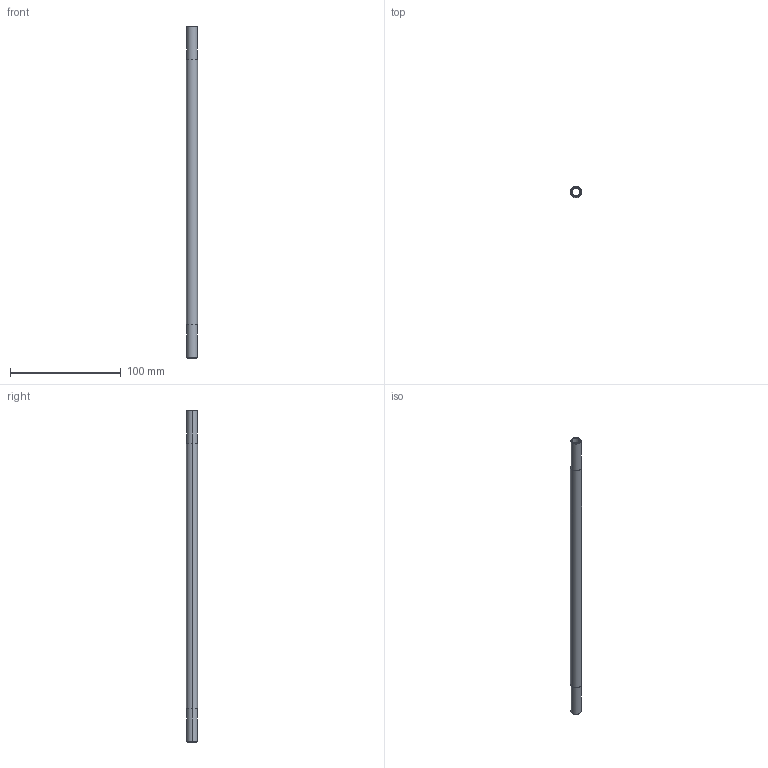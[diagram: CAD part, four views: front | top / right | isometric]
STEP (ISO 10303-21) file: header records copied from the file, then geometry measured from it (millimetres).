
FILE_DESCRIPTION (( 'STEP AP214' ), '1' );
FILE_NAME ('BruyRubio_BR88_-1_8_GAS_x_300.STEP', '2019-12-17T12:22:46', ( '' ), ( '' ), 'SwSTEP 2.0', 'SolidWorks 2017', '' );
FILE_SCHEMA (( 'AUTOMOTIVE_DESIGN' ));
Length unit declared in the file: millimetre
Products named in the file (1): BruyRubio_BR88_-1_8_GAS_x_300
Bounding box: 10 x 10 x 300 mm (x, y, z)
Volume: 11756.3 mm3; surface area: 19326.6 mm2
Topology: 3 solids, 3 shells, 28 faces, 56 edges, 36 vertices
Faces by surface type: cylinder 16, plane 8, cone 4
Entity records: 1116 total; most frequent: DIRECTION 150, CARTESIAN_POINT 121, ORIENTED_EDGE 112, AXIS2_PLACEMENT_3D 65, EDGE_CURVE 56, EDGE_LOOP 36, VERTEX_POINT 36, CIRCLE 36
